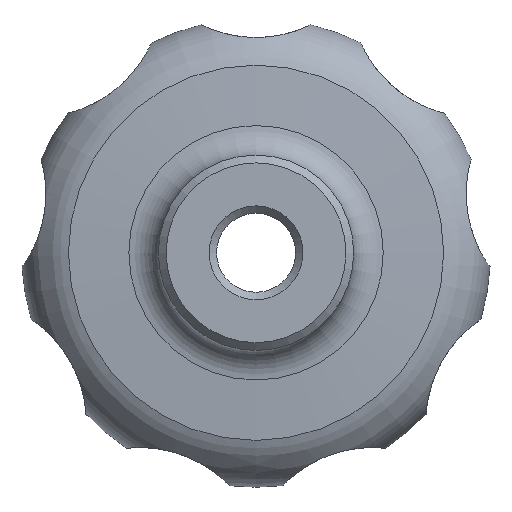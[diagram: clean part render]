
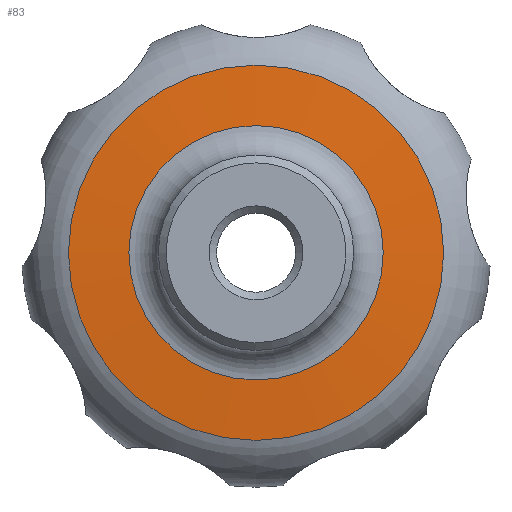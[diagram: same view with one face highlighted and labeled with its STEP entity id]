
A CAD part, front view. The second image highlights one B-rep face of the part: STEP entity #83.
In plain terms, the highlighted spherical face has radius 288.5 mm.
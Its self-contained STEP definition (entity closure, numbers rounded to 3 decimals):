
#83 = ADVANCED_FACE( '', ( #116, #117 ), #118, .T. );
#116 = FACE_OUTER_BOUND( '', #177, .T. );
#117 = FACE_OUTER_BOUND( '', #178, .T. );
#118 = SPHERICAL_SURFACE( '', #179, 288.5 );
#177 = EDGE_LOOP( '', ( #254 ) );
#178 = EDGE_LOOP( '', ( #255 ) );
#179 = AXIS2_PLACEMENT_3D( '', #256, #257, #258 );
#254 = ORIENTED_EDGE( '', *, *, #328, .T. );
#255 = ORIENTED_EDGE( '', *, *, #327, .F. );
#256 = CARTESIAN_POINT( '', ( 0., 306.5, 0. ) );
#257 = DIRECTION( '', ( 0., -1., 0. ) );
#258 = DIRECTION( '', ( 1., 0., 0. ) );
#327 = EDGE_CURVE( '', #356, #356, #357, .T. );
#328 = EDGE_CURVE( '', #358, #358, #359, .T. );
#356 = VERTEX_POINT( '', #732 );
#357 = CIRCLE( '', #733, 16.274 );
#358 = VERTEX_POINT( '', #734 );
#359 = CIRCLE( '', #735, 24. );
#732 = CARTESIAN_POINT( '', ( 0., 18.459, -16.274 ) );
#733 = AXIS2_PLACEMENT_3D( '', #1203, #1204, #1205 );
#734 = CARTESIAN_POINT( '', ( 0., 19., -24. ) );
#735 = AXIS2_PLACEMENT_3D( '', #1206, #1207, #1208 );
#1203 = CARTESIAN_POINT( '', ( 0., 18.459, 0. ) );
#1204 = DIRECTION( '', ( 0., -1., 0. ) );
#1205 = DIRECTION( '', ( 0., 0., -1. ) );
#1206 = CARTESIAN_POINT( '', ( 0., 19., 0. ) );
#1207 = DIRECTION( '', ( 0., -1., 0. ) );
#1208 = DIRECTION( '', ( 0., 0., -1. ) );
